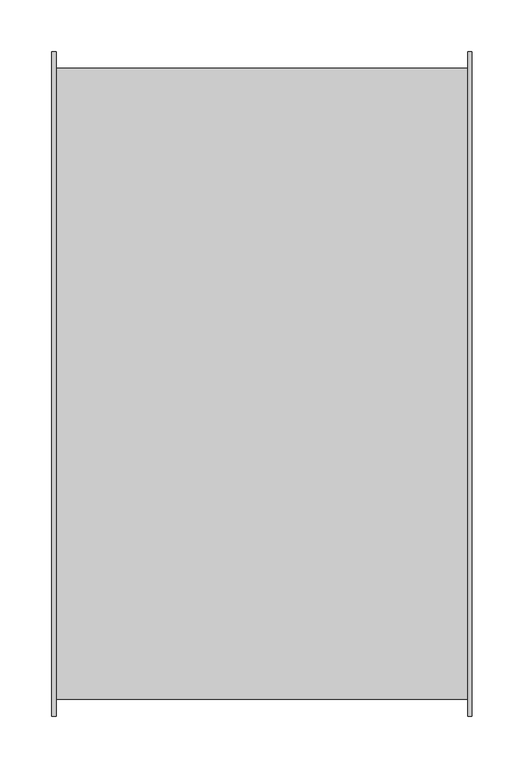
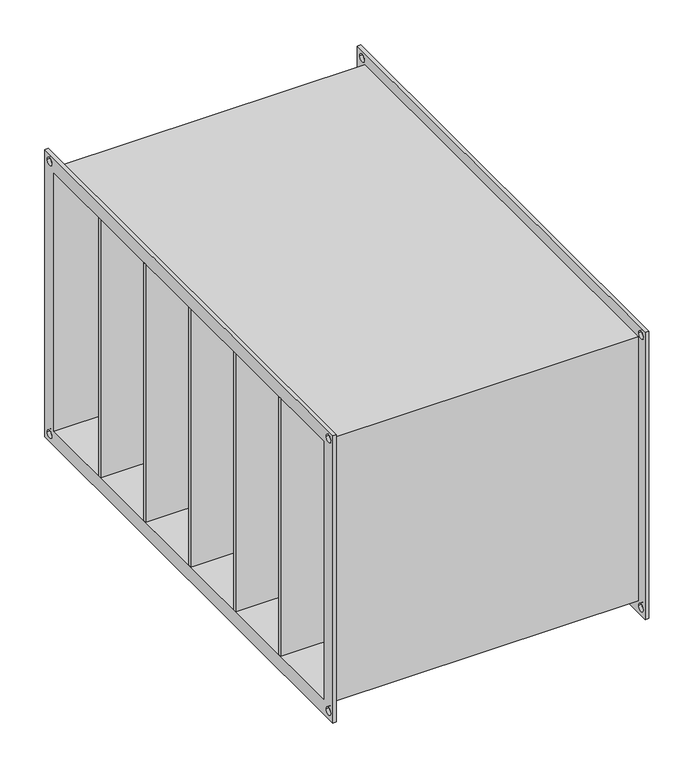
"""IFC4 building model written with IfcOpenShell, lengths in millimetres: damper geometry, СВ_ФильтрКарманныйУкороченный_КанальныйПрямоугольный_200-1000_SFPKU : SFPKU-600x350."""

from ifc_helpers import new_model, si_unit, frame, origin, place, context, project, spatial, polyline, circle_curve, outline, extrude, source, transform, mapped, element, save
from ifc_brep_helpers import plane_surface, revolved_surface, advanced_brep


def damper_8a3483a6(model_context):
    return source(origin(), model_context, "Body", "SolidModel", [
        extrude(outline(polyline([(202.5, 200.0), (202.5, 196.0), (-202.5, 196.0), (-202.5, 200.0), (202.5, 200.0)])), frame((0.0, 0.0, -175.0), z_axis=(0.0, 0.0, 1.0), x_axis=(1.0, 0.0, 0.0)), (0.0, 0.0, 1.0), 350.0),
        extrude(outline(polyline([(202.5, 100.0), (202.5, 96.0), (-202.5, 96.0), (-202.5, 100.0), (202.5, 100.0)])), frame((0.0, 0.0, -175.0), z_axis=(0.0, 0.0, 1.0), x_axis=(1.0, 0.0, 0.0)), (0.0, 0.0, 1.0), 350.0),
        extrude(outline(polyline([(202.5, 0.0), (202.5, -4.0), (-202.5, -4.0), (-202.5, 0.0), (202.5, 0.0)])), frame((0.0, 0.0, -175.0), z_axis=(0.0, 0.0, 1.0), x_axis=(1.0, 0.0, 0.0)), (0.0, 0.0, 1.0), 350.0),
        extrude(outline(polyline([(202.5, -100.0), (202.5, -104.0), (-202.5, -104.0), (-202.5, -100.0), (202.5, -100.0)])), frame((0.0, 0.0, -175.0), z_axis=(0.0, 0.0, 1.0), x_axis=(1.0, 0.0, 0.0)), (0.0, 0.0, 1.0), 350.0),
        extrude(outline(polyline([(202.5, -200.0), (202.5, -204.0), (-202.5, -204.0), (-202.5, -200.0), (202.5, -200.0)])), frame((0.0, 0.0, -175.0), z_axis=(0.0, 0.0, 1.0), x_axis=(1.0, 0.0, 0.0)), (0.0, 0.0, 1.0), 350.0),
        advanced_brep(
        [(198.5, -304.0, 179.0), (-198.5, -304.0, 179.0), (-198.5, -304.0, -179.0), (198.5, -304.0, -179.0), (-198.5, 304.0, -179.0), (198.5, 304.0, -179.0), (-198.5, 304.0, 179.0), (198.5, 304.0, 179.0), (-202.5, -320.0, 195.0), (-202.5, 320.0, 195.0), (-202.5, 320.0, -195.0), (-202.5, -320.0, -195.0), (-202.5, -300.0, 175.0), (-202.5, -300.0, -175.0), (-202.5, 300.0, -175.0), (-202.5, 300.0, 175.0), (-202.5, 305.0, 185.0), (-202.5, 315.0, 185.0), (-202.5, -315.0, 185.0), (-202.5, -305.0, 185.0), (-202.5, -315.0, -185.0), (-202.5, -305.0, -185.0), (-202.5, 305.0, -185.0), (-202.5, 315.0, -185.0), (-198.5, -320.0, 195.0), (-198.5, -320.0, -195.0), (-198.5, 320.0, -195.0), (-198.5, 320.0, 195.0), (-198.5, 315.0, 185.0), (-198.5, 305.0, 185.0), (-198.5, -305.0, 185.0), (-198.5, -315.0, 185.0), (-198.5, -305.0, -185.0), (-198.5, -315.0, -185.0), (-198.5, 315.0, -185.0), (-198.5, 305.0, -185.0), (202.5, 300.0, 175.0), (202.5, -300.0, 175.0), (202.5, 300.0, -175.0), (202.5, -300.0, -175.0), (198.5, 320.0, 195.0), (198.5, 320.0, -195.0), (198.5, -320.0, -195.0), (198.5, -320.0, 195.0), (198.5, 305.0, 185.0), (198.5, 315.0, 185.0), (198.5, -315.0, 185.0), (198.5, -305.0, 185.0), (198.5, -315.0, -185.0), (198.5, -305.0, -185.0), (198.5, 305.0, -185.0), (198.5, 315.0, -185.0), (202.5, 320.0, 195.0), (202.5, -320.0, 195.0), (202.5, -320.0, -195.0), (202.5, 320.0, -195.0), (202.5, 315.0, 185.0), (202.5, 305.0, 185.0), (202.5, -305.0, 185.0), (202.5, -315.0, 185.0), (202.5, -305.0, -185.0), (202.5, -315.0, -185.0), (202.5, 315.0, -185.0), (202.5, 305.0, -185.0)],
        [
            (0, 1),
            (1, 2),
            (2, 3),
            (3, 0),
            (2, 4),
            (4, 5),
            (5, 3),
            (4, 6),
            (6, 7),
            (7, 5),
            (0, 7),
            (6, 1),
            (8, 9),
            (9, 10),
            (10, 11),
            (11, 8),
            (12, 13),
            (13, 14),
            (14, 15),
            (15, 12),
            (16, 17, circle_curve(frame((-202.5, 310.0, 185.0), z_axis=(1.0, 0.0, 0.0), x_axis=(0.0, 1.0, 0.0)), 5.0)),
            (17, 16, circle_curve(frame((-202.5, 310.0, 185.0), z_axis=(1.0, 0.0, 0.0), x_axis=(0.0, 1.0, 0.0)), 5.0)),
            (18, 19, circle_curve(frame((-202.5, -310.0, 185.0), z_axis=(1.0, 0.0, 0.0), x_axis=(0.0, 1.0, 0.0)), 5.0)),
            (19, 18, circle_curve(frame((-202.5, -310.0, 185.0), z_axis=(1.0, 0.0, 0.0), x_axis=(0.0, 1.0, 0.0)), 5.0)),
            (20, 21, circle_curve(frame((-202.5, -310.0, -185.0), z_axis=(1.0, 0.0, 0.0), x_axis=(0.0, 1.0, 0.0)), 5.0)),
            (21, 20, circle_curve(frame((-202.5, -310.0, -185.0), z_axis=(1.0, 0.0, 0.0), x_axis=(0.0, 1.0, 0.0)), 5.0)),
            (22, 23, circle_curve(frame((-202.5, 310.0, -185.0), z_axis=(1.0, 0.0, 0.0), x_axis=(0.0, 1.0, 0.0)), 5.0)),
            (23, 22, circle_curve(frame((-202.5, 310.0, -185.0), z_axis=(1.0, 0.0, 0.0), x_axis=(0.0, 1.0, 0.0)), 5.0)),
            (24, 25),
            (25, 26),
            (26, 27),
            (27, 24),
            (28, 29, circle_curve(frame((-198.5, 310.0, 185.0), z_axis=(-1.0, 0.0, 0.0), x_axis=(0.0, 1.0, 0.0)), 5.0)),
            (29, 28, circle_curve(frame((-198.5, 310.0, 185.0), z_axis=(-1.0, 0.0, 0.0), x_axis=(0.0, 1.0, 0.0)), 5.0)),
            (30, 31, circle_curve(frame((-198.5, -310.0, 185.0), z_axis=(-1.0, 0.0, 0.0), x_axis=(0.0, 1.0, 0.0)), 5.0)),
            (31, 30, circle_curve(frame((-198.5, -310.0, 185.0), z_axis=(-1.0, 0.0, 0.0), x_axis=(0.0, 1.0, 0.0)), 5.0)),
            (32, 33, circle_curve(frame((-198.5, -310.0, -185.0), z_axis=(-1.0, 0.0, 0.0), x_axis=(0.0, 1.0, 0.0)), 5.0)),
            (33, 32, circle_curve(frame((-198.5, -310.0, -185.0), z_axis=(-1.0, 0.0, 0.0), x_axis=(0.0, 1.0, 0.0)), 5.0)),
            (34, 35, circle_curve(frame((-198.5, 310.0, -185.0), z_axis=(-1.0, 0.0, 0.0), x_axis=(0.0, 1.0, 0.0)), 5.0)),
            (35, 34, circle_curve(frame((-198.5, 310.0, -185.0), z_axis=(-1.0, 0.0, 0.0), x_axis=(0.0, 1.0, 0.0)), 5.0)),
            (11, 25),
            (24, 8),
            (10, 26),
            (9, 27),
            (15, 36),
            (36, 37),
            (37, 12),
            (14, 38),
            (38, 36),
            (13, 39),
            (39, 38),
            (37, 39),
            (40, 41),
            (41, 42),
            (42, 43),
            (43, 40),
            (44, 45, circle_curve(frame((198.5, 310.0, 185.0), z_axis=(1.0, 0.0, 0.0), x_axis=(0.0, 1.0, 0.0)), 5.0)),
            (45, 44, circle_curve(frame((198.5, 310.0, 185.0), z_axis=(1.0, 0.0, 0.0), x_axis=(0.0, 1.0, 0.0)), 5.0)),
            (46, 47, circle_curve(frame((198.5, -310.0, 185.0), z_axis=(1.0, 0.0, 0.0), x_axis=(0.0, 1.0, 0.0)), 5.0)),
            (47, 46, circle_curve(frame((198.5, -310.0, 185.0), z_axis=(1.0, 0.0, 0.0), x_axis=(0.0, 1.0, 0.0)), 5.0)),
            (48, 49, circle_curve(frame((198.5, -310.0, -185.0), z_axis=(1.0, 0.0, 0.0), x_axis=(0.0, 1.0, 0.0)), 5.0)),
            (49, 48, circle_curve(frame((198.5, -310.0, -185.0), z_axis=(1.0, 0.0, 0.0), x_axis=(0.0, 1.0, 0.0)), 5.0)),
            (50, 51, circle_curve(frame((198.5, 310.0, -185.0), z_axis=(1.0, 0.0, 0.0), x_axis=(0.0, 1.0, 0.0)), 5.0)),
            (51, 50, circle_curve(frame((198.5, 310.0, -185.0), z_axis=(1.0, 0.0, 0.0), x_axis=(0.0, 1.0, 0.0)), 5.0)),
            (52, 53),
            (53, 54),
            (54, 55),
            (55, 52),
            (56, 57, circle_curve(frame((202.5, 310.0, 185.0), z_axis=(-1.0, 0.0, 0.0), x_axis=(0.0, 1.0, 0.0)), 5.0)),
            (57, 56, circle_curve(frame((202.5, 310.0, 185.0), z_axis=(-1.0, 0.0, 0.0), x_axis=(0.0, 1.0, 0.0)), 5.0)),
            (58, 59, circle_curve(frame((202.5, -310.0, 185.0), z_axis=(-1.0, 0.0, 0.0), x_axis=(0.0, 1.0, 0.0)), 5.0)),
            (59, 58, circle_curve(frame((202.5, -310.0, 185.0), z_axis=(-1.0, 0.0, 0.0), x_axis=(0.0, 1.0, 0.0)), 5.0)),
            (60, 61, circle_curve(frame((202.5, -310.0, -185.0), z_axis=(-1.0, 0.0, 0.0), x_axis=(0.0, 1.0, 0.0)), 5.0)),
            (61, 60, circle_curve(frame((202.5, -310.0, -185.0), z_axis=(-1.0, 0.0, 0.0), x_axis=(0.0, 1.0, 0.0)), 5.0)),
            (62, 63, circle_curve(frame((202.5, 310.0, -185.0), z_axis=(-1.0, 0.0, 0.0), x_axis=(0.0, 1.0, 0.0)), 5.0)),
            (63, 62, circle_curve(frame((202.5, 310.0, -185.0), z_axis=(-1.0, 0.0, 0.0), x_axis=(0.0, 1.0, 0.0)), 5.0)),
            (43, 53),
            (52, 40),
            (42, 54),
            (41, 55),
            (16, 29),
            (28, 17),
            (44, 57),
            (56, 45),
            (18, 31),
            (30, 19),
            (46, 59),
            (58, 47),
            (20, 33),
            (32, 21),
            (48, 61),
            (60, 49),
            (22, 35),
            (34, 23),
            (50, 63),
            (62, 51),
        ],
        [
            plane_surface(frame((198.5, -304.0, 179.0), z_axis=(0.0, -1.0, 0.0), x_axis=(-1.0, 0.0, 0.0))),
            plane_surface(frame((198.5, -304.0, -179.0), z_axis=(0.0, 0.0, -1.0), x_axis=(-1.0, 0.0, 0.0))),
            plane_surface(frame((198.5, 304.0, -179.0), z_axis=(0.0, 1.0, 0.0), x_axis=(-1.0, 0.0, 0.0))),
            plane_surface(frame((198.5, 304.0, 179.0), z_axis=(0.0, 0.0, 1.0), x_axis=(-1.0, 0.0, 0.0))),
            plane_surface(frame((-202.5, -320.0, 195.0), z_axis=(-1.0, 0.0, 0.0), x_axis=(0.0, 0.0, 1.0))),
            plane_surface(frame((-198.5, -320.0, 195.0), z_axis=(1.0, 0.0, 0.0), x_axis=(0.0, 0.0, -1.0))),
            plane_surface(frame((-198.5, -320.0, 195.0), z_axis=(0.0, -1.0, 0.0), x_axis=(-1.0, 0.0, 0.0))),
            plane_surface(frame((-198.5, -320.0, -195.0), z_axis=(0.0, 0.0, -1.0), x_axis=(-1.0, 0.0, 0.0))),
            plane_surface(frame((-198.5, 320.0, -195.0), z_axis=(0.0, 1.0, 0.0), x_axis=(-1.0, 0.0, 0.0))),
            plane_surface(frame((-198.5, 320.0, 195.0), z_axis=(0.0, 0.0, 1.0), x_axis=(-1.0, 0.0, 0.0))),
            plane_surface(frame((-198.5, -300.0, 175.0), z_axis=(0.0, 0.0, -1.0), x_axis=(-1.0, 0.0, 0.0))),
            plane_surface(frame((-198.5, 300.0, 175.0), z_axis=(0.0, -1.0, 0.0), x_axis=(-1.0, 0.0, 0.0))),
            plane_surface(frame((-198.5, 300.0, -175.0), z_axis=(0.0, 0.0, 1.0), x_axis=(-1.0, 0.0, 0.0))),
            plane_surface(frame((-198.5, -300.0, -175.0), z_axis=(0.0, 1.0, 0.0), x_axis=(-1.0, 0.0, 0.0))),
            plane_surface(frame((198.5, 300.0, -175.0), z_axis=(-1.0, 0.0, 0.0), x_axis=(0.0, 0.0, 1.0))),
            plane_surface(frame((202.5, 300.0, -175.0), z_axis=(1.0, 0.0, 0.0), x_axis=(0.0, 0.0, -1.0))),
            plane_surface(frame((202.5, 320.0, 195.0), z_axis=(0.0, 0.0, 1.0), x_axis=(-1.0, 0.0, 0.0))),
            plane_surface(frame((202.5, -320.0, 195.0), z_axis=(0.0, -1.0, 0.0), x_axis=(-1.0, 0.0, 0.0))),
            plane_surface(frame((202.5, -320.0, -195.0), z_axis=(0.0, 0.0, -1.0), x_axis=(-1.0, 0.0, 0.0))),
            plane_surface(frame((202.5, 320.0, -195.0), z_axis=(0.0, 1.0, 0.0), x_axis=(-1.0, 0.0, 0.0))),
            revolved_surface(polyline([(-198.5, 315.0, 185.0), (-202.5, 315.0, 185.0)]), (-202.5, 310.0, 185.0), (1.0, 0.0, 0.0)),
            revolved_surface(polyline([(202.5, 315.0, 185.0), (198.5, 315.0, 185.0)]), (-202.5, 310.0, 185.0), (1.0, 0.0, 0.0)),
            revolved_surface(polyline([(-198.5, -305.0, 185.0), (-202.5, -305.0, 185.0)]), (0.0, -310.0, 185.0), (1.0, 0.0, 0.0)),
            revolved_surface(polyline([(202.5, -305.0, 185.0), (198.5, -305.0, 185.0)]), (0.0, -310.0, 185.0), (1.0, 0.0, 0.0)),
            revolved_surface(polyline([(-198.5, -305.0, -185.0), (-202.5, -305.0, -185.0)]), (0.0, -310.0, -185.0), (1.0, 0.0, 0.0)),
            revolved_surface(polyline([(202.5, -305.0, -185.0), (198.5, -305.0, -185.0)]), (0.0, -310.0, -185.0), (1.0, 0.0, 0.0)),
            revolved_surface(polyline([(-198.5, 315.0, -185.0), (-202.5, 315.0, -185.0)]), (0.0, 310.0, -185.0), (1.0, 0.0, 0.0)),
            revolved_surface(polyline([(202.5, 315.0, -185.0), (198.5, 315.0, -185.0)]), (0.0, 310.0, -185.0), (1.0, 0.0, 0.0)),
        ],
        [
            (0, [[1, 2, 3, 4]]),
            (1, [[-3, 5, 6, 7]]),
            (2, [[-6, 8, 9, 10]]),
            (3, [[-1, 11, -9, 12]]),
            (4, [[13, 14, 15, 16], [17, 18, 19, 20], [21, 22], [23, 24], [25, 26], [27, 28]]),
            (5, [[29, 30, 31, 32], [-2, -12, -8, -5], [33, 34], [35, 36], [37, 38], [39, 40]]),
            (6, [[-16, 41, -29, 42]]),
            (7, [[-15, 43, -30, -41]]),
            (8, [[-14, 44, -31, -43]]),
            (9, [[-13, -42, -32, -44]]),
            (10, [[-20, 45, 46, 47]]),
            (11, [[-45, -19, 48, 49]]),
            (12, [[-48, -18, 50, 51]]),
            (13, [[-50, -17, -47, 52]]),
            (14, [[53, 54, 55, 56], [-4, -7, -10, -11], [57, 58], [59, 60], [61, 62], [63, 64]]),
            (15, [[65, 66, 67, 68], [-49, -51, -52, -46], [69, 70], [71, 72], [73, 74], [75, 76]]),
            (16, [[-56, 77, -65, 78]]),
            (17, [[-55, 79, -66, -77]]),
            (18, [[-54, 80, -67, -79]]),
            (19, [[-53, -78, -68, -80]]),
            (20, [[81, -33, 82, -21]]),
            (21, [[83, -69, 84, -57]]),
            (20, [[-81, -22, -82, -34]]),
            (21, [[-83, -58, -84, -70]]),
            (22, [[85, -35, 86, -23]]),
            (23, [[87, -71, 88, -59]]),
            (22, [[-85, -24, -86, -36]]),
            (23, [[-87, -60, -88, -72]]),
            (24, [[89, -37, 90, -25]]),
            (25, [[91, -73, 92, -61]]),
            (24, [[-89, -26, -90, -38]]),
            (25, [[-91, -62, -92, -74]]),
            (26, [[93, -39, 94, -27]]),
            (27, [[95, -75, 96, -63]]),
            (26, [[-93, -28, -94, -40]]),
            (27, [[-95, -64, -96, -76]]),
        ],
    ),
    ])


if __name__ == "__main__":
    model = new_model("IFC4")
    model_context = context("Model", 3, world=origin())
    ifc_project = project(units=[si_unit("LENGTHUNIT", "METRE", prefix="MILLI")], contexts=[model_context])
    site = spatial("IfcSite", under=ifc_project)
    building = spatial("IfcBuilding", under=site)
    placement = place(None, origin())
    damper_shape = damper_8a3483a6(model_context)
    element("IfcDamper", 1, ObjectType="СВ_ФильтрКарманныйУкороченный_КанальныйПрямоугольный_200-1000_SFPKU : SFPKU-600x350", at=placement, inside=building, context=model_context, shape_type="MappedRepresentation", body=[
        mapped(damper_shape, transform((0.0, 0.0, 0.0), x_axis=(1.0, 0.0, 0.0), y_axis=(0.0, 1.0, 0.0), z_axis=(0.0, 0.0, 1.0))),
    ])
    save(model, "model.ifc")
